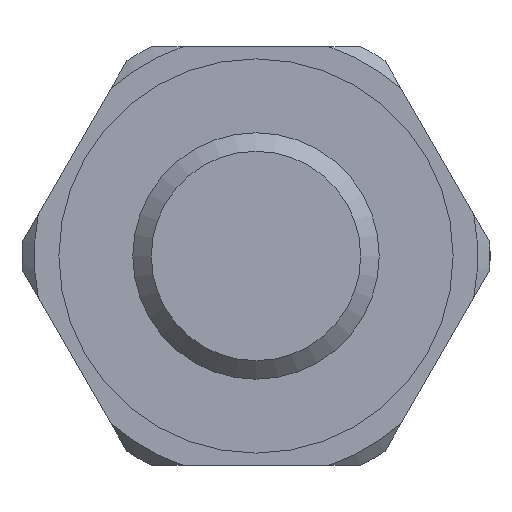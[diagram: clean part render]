
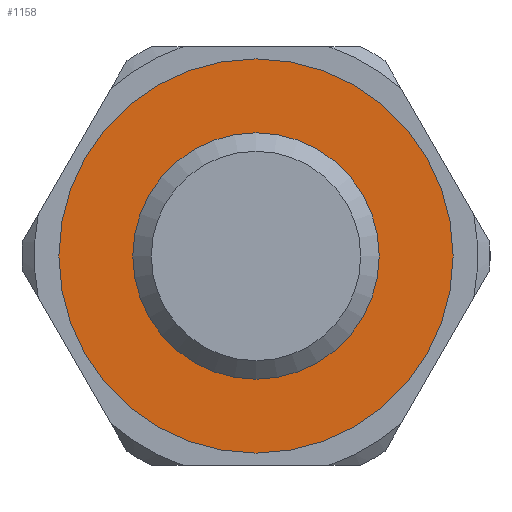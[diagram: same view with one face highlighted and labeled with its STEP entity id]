
A CAD part, left-side view. The second image highlights one B-rep face of the part: STEP entity #1158.
In plain terms, the highlighted planar face has unit normal (-1, 0, 0).
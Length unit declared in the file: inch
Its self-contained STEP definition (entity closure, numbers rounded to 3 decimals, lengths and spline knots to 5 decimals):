
#63=FACE_BOUND('',#213,.T.);
#86=PLANE('',#1312);
#143=FACE_OUTER_BOUND('',#212,.T.);
#212=EDGE_LOOP('',(#957,#958));
#213=EDGE_LOOP('',(#959,#960));
#358=CIRCLE('',#1240,0.1378);
#359=CIRCLE('',#1241,0.1378);
#394=CIRCLE('',#1310,0.31496);
#395=CIRCLE('',#1311,0.31496);
#448=VERTEX_POINT('',#1792);
#449=VERTEX_POINT('',#1793);
#508=VERTEX_POINT('',#2027);
#509=VERTEX_POINT('',#2028);
#570=EDGE_CURVE('',#448,#449,#358,.T.);
#571=EDGE_CURVE('',#449,#448,#359,.T.);
#663=EDGE_CURVE('',#508,#509,#394,.T.);
#664=EDGE_CURVE('',#509,#508,#395,.T.);
#957=ORIENTED_EDGE('',*,*,#663,.T.);
#958=ORIENTED_EDGE('',*,*,#664,.T.);
#959=ORIENTED_EDGE('',*,*,#570,.T.);
#960=ORIENTED_EDGE('',*,*,#571,.T.);
#1158=ADVANCED_FACE('',(#143,#63),#86,.T.);
#1240=AXIS2_PLACEMENT_3D('',#1794,#1450,#1451);
#1241=AXIS2_PLACEMENT_3D('',#1795,#1452,#1453);
#1310=AXIS2_PLACEMENT_3D('',#2029,#1623,#1624);
#1311=AXIS2_PLACEMENT_3D('',#2030,#1625,#1626);
#1312=AXIS2_PLACEMENT_3D('',#2032,#1628,#1629);
#1450=DIRECTION('center_axis',(1.,0.,0.));
#1451=DIRECTION('ref_axis',(0.,0.,1.));
#1452=DIRECTION('center_axis',(1.,0.,0.));
#1453=DIRECTION('ref_axis',(0.,0.,1.));
#1623=DIRECTION('center_axis',(-1.,0.,0.));
#1624=DIRECTION('ref_axis',(0.,0.,1.));
#1625=DIRECTION('center_axis',(-1.,0.,0.));
#1626=DIRECTION('ref_axis',(0.,0.,1.));
#1628=DIRECTION('center_axis',(-1.,0.,0.));
#1629=DIRECTION('ref_axis',(0.,0.,1.));
#1792=CARTESIAN_POINT('',(-2.21862,-0.42833,0.56421));
#1793=CARTESIAN_POINT('',(-2.21862,-0.42833,0.28862));
#1794=CARTESIAN_POINT('Origin',(-2.21862,-0.42833,0.42641));
#1795=CARTESIAN_POINT('Origin',(-2.21862,-0.42833,0.42641));
#2027=CARTESIAN_POINT('',(-2.21862,-0.42833,0.74137));
#2028=CARTESIAN_POINT('',(-2.21862,-0.42833,0.11145));
#2029=CARTESIAN_POINT('Origin',(-2.21862,-0.42833,0.42641));
#2030=CARTESIAN_POINT('Origin',(-2.21862,-0.42833,0.42641));
#2032=CARTESIAN_POINT('Origin',(-2.21862,-0.42833,0.42641));
